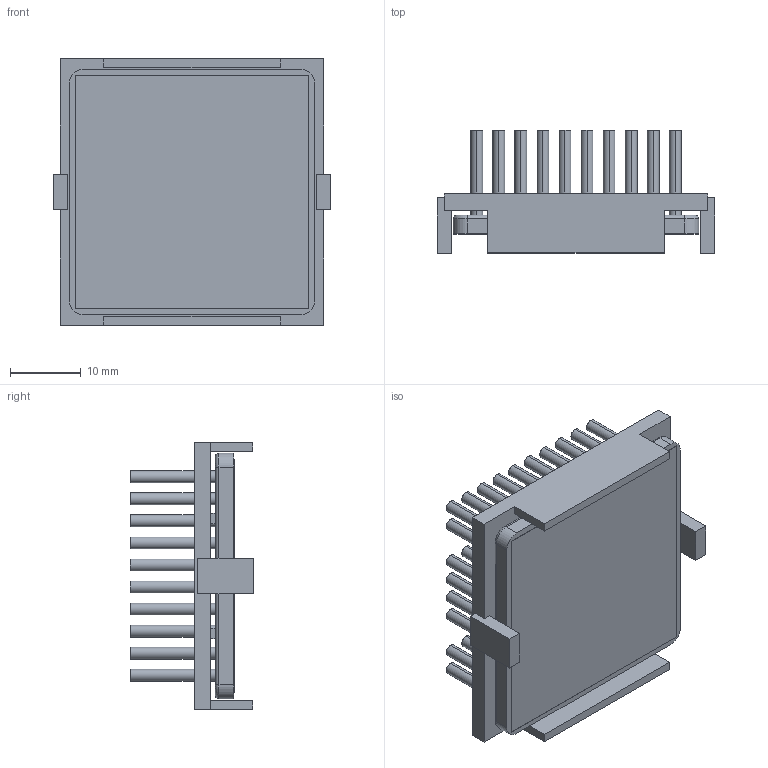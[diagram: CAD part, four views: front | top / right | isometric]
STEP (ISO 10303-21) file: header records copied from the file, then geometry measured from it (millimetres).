
FILE_DESCRIPTION (( 'STEP AP214' ), '1' );
FILE_NAME ('INM35002-15P-2.6K29.STEP', '2023-02-21T00:04:29', ( '' ), ( '' ), 'SwSTEP 2.0', 'SolidWorks 2020', '' );
FILE_SCHEMA (( 'AUTOMOTIVE_DESIGN' ));
Length unit declared in the file: inch
Products named in the file (1): INM35002-15P-2.6K29
Bounding box: 39.2 x 17.4 x 37.7 mm (x, y, z)
Volume: 7430.5 mm3; surface area: 13363.1 mm2
Topology: 3 solids, 3 shells, 354 faces, 760 edges, 504 vertices
Faces by surface type: cylinder 192, plane 158, torus 4
Entity records: 14416 total; most frequent: DIRECTION 1858, CARTESIAN_POINT 1619, ORIENTED_EDGE 1520, EDGE_CURVE 760, AXIS2_PLACEMENT_3D 743, VERTEX_POINT 504, EDGE_LOOP 448, CIRCLE 388
